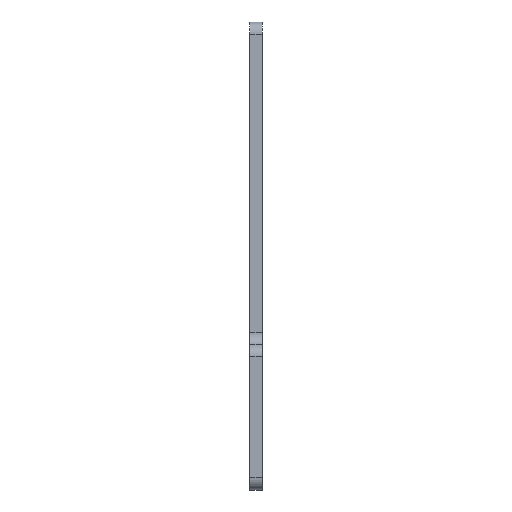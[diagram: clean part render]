
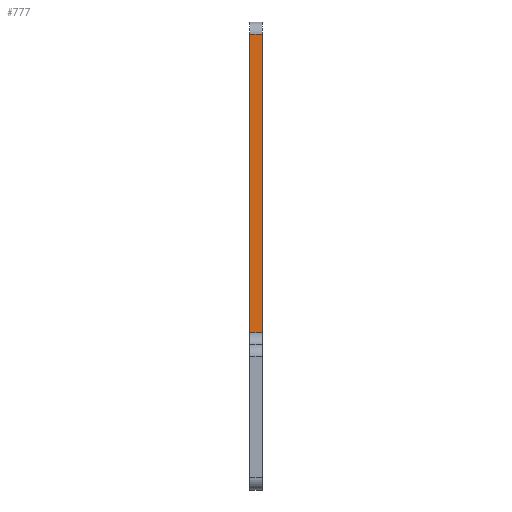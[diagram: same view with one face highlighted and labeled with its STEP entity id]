
A CAD part, left-side view. The second image highlights one B-rep face of the part: STEP entity #777.
In plain terms, the highlighted planar face has unit normal (-1, 0, 0).
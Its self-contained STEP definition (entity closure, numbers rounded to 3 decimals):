
#24 = CARTESIAN_POINT ( 'NONE',  ( -18., 3., 95. ) ) ;
#34 = CARTESIAN_POINT ( 'NONE',  ( -18., 0., 21. ) ) ;
#74 = CARTESIAN_POINT ( 'NONE',  ( -18., 0., 98. ) ) ;
#104 = ORIENTED_EDGE ( 'NONE', *, *, #641, .F. ) ;
#127 = CARTESIAN_POINT ( 'NONE',  ( -18., 3., 98. ) ) ;
#134 = ORIENTED_EDGE ( 'NONE', *, *, #570, .F. ) ;
#152 = ORIENTED_EDGE ( 'NONE', *, *, #359, .F. ) ;
#233 = VERTEX_POINT ( 'NONE', #397 ) ;
#259 = CARTESIAN_POINT ( 'NONE',  ( -18., 0., 98. ) ) ;
#294 = VERTEX_POINT ( 'NONE', #557 ) ;
#314 = CARTESIAN_POINT ( 'NONE',  ( -18., 0., 95. ) ) ;
#330 = EDGE_CURVE ( 'NONE', #642, #233, #423, .T. ) ;
#359 = EDGE_CURVE ( 'NONE', #294, #778, #770, .T. ) ;
#382 = DIRECTION ( 'NONE',  ( 0., 1., 0. ) ) ;
#394 = AXIS2_PLACEMENT_3D ( 'NONE', #259, #774, #411 ) ;
#397 = CARTESIAN_POINT ( 'NONE',  ( -18., 3., 21. ) ) ;
#408 = VECTOR ( 'NONE', #640, 1000. ) ;
#411 = DIRECTION ( 'NONE',  ( 0., 0., -1. ) ) ;
#423 = LINE ( 'NONE', #127, #408 ) ;
#434 = FACE_OUTER_BOUND ( 'NONE', #678, .T. ) ;
#474 = VECTOR ( 'NONE', #653, 1000. ) ;
#557 = CARTESIAN_POINT ( 'NONE',  ( -18., 0., 95. ) ) ;
#570 = EDGE_CURVE ( 'NONE', #778, #233, #883, .T. ) ;
#589 = DIRECTION ( 'NONE',  ( 0., -1., 0. ) ) ;
#609 = PLANE ( 'NONE',  #394 ) ;
#639 = ORIENTED_EDGE ( 'NONE', *, *, #330, .T. ) ;
#640 = DIRECTION ( 'NONE',  ( 0., 0., -1. ) ) ;
#641 = EDGE_CURVE ( 'NONE', #642, #294, #799, .T. ) ;
#642 = VERTEX_POINT ( 'NONE', #24 ) ;
#653 = DIRECTION ( 'NONE',  ( 0., 0., -1. ) ) ;
#660 = CARTESIAN_POINT ( 'NONE',  ( -18., 3., 21. ) ) ;
#678 = EDGE_LOOP ( 'NONE', ( #639, #134, #152, #104 ) ) ;
#761 = VECTOR ( 'NONE', #589, 1000. ) ;
#770 = LINE ( 'NONE', #74, #474 ) ;
#774 = DIRECTION ( 'NONE',  ( -1., 0., 0. ) ) ;
#777 = ADVANCED_FACE ( 'NONE', ( #434 ), #609, .T. ) ;
#778 = VERTEX_POINT ( 'NONE', #34 ) ;
#799 = LINE ( 'NONE', #314, #761 ) ;
#870 = VECTOR ( 'NONE', #382, 1000. ) ;
#883 = LINE ( 'NONE', #660, #870 ) ;
